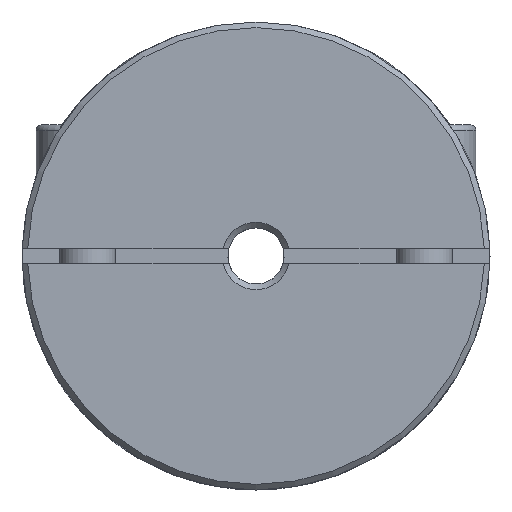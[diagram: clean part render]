
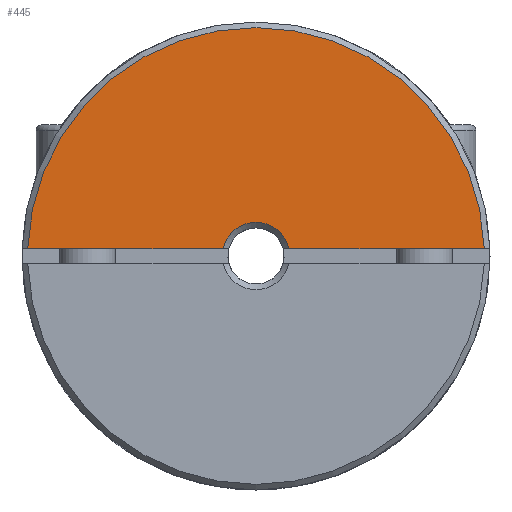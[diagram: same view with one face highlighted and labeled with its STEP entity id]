
A CAD part, left-side view. The second image highlights one B-rep face of the part: STEP entity #445.
In plain terms, the highlighted planar face has unit normal (-1, 0, 0) as drawn and (1, 0, 0) by its records, which use the part's own axes.
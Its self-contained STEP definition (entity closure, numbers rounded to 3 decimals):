
#445 = ADVANCED_FACE( '', ( #894 ), #895, .T. );
#894 = FACE_OUTER_BOUND( '', #1305, .T. );
#895 = PLANE( '', #1306 );
#1305 = EDGE_LOOP( '', ( #1995, #1996, #1997, #1998 ) );
#1306 = AXIS2_PLACEMENT_3D( '', #1999, #2000, #2001 );
#1995 = ORIENTED_EDGE( '', *, *, #2221, .F. );
#1996 = ORIENTED_EDGE( '', *, *, #2123, .T. );
#1997 = ORIENTED_EDGE( '', *, *, #2065, .F. );
#1998 = ORIENTED_EDGE( '', *, *, #2273, .T. );
#1999 = CARTESIAN_POINT( '', ( 11., 0., 12.5 ) );
#2000 = DIRECTION( '', ( 1., 0., 0. ) );
#2001 = DIRECTION( '', ( 0., 0., -1. ) );
#2065 = EDGE_CURVE( '', #2345, #2347, #2348, .T. );
#2123 = EDGE_CURVE( '', #2438, #2347, #2440, .T. );
#2221 = EDGE_CURVE( '', #2438, #2578, #2579, .T. );
#2273 = EDGE_CURVE( '', #2345, #2578, #2638, .F. );
#2345 = VERTEX_POINT( '', #2730 );
#2347 = VERTEX_POINT( '', #2735 );
#2348 = LINE( '', #2736, #2737 );
#2438 = VERTEX_POINT( '', #2961 );
#2440 = CIRCLE( '', #2966, 12.2 );
#2578 = VERTEX_POINT( '', #3207 );
#2579 = LINE( '', #3208, #3209 );
#2638 = CIRCLE( '', #3274, 1.8 );
#2730 = CARTESIAN_POINT( '', ( 11., -1.755, 0.4 ) );
#2735 = CARTESIAN_POINT( '', ( 11., -12.193, 0.4 ) );
#2736 = CARTESIAN_POINT( '', ( 11., 0., 0.4 ) );
#2737 = VECTOR( '', #3332, 1000. );
#2961 = CARTESIAN_POINT( '', ( 11., 12.193, 0.4 ) );
#2966 = AXIS2_PLACEMENT_3D( '', #3416, #3417, #3418 );
#3207 = CARTESIAN_POINT( '', ( 11., 1.755, 0.4 ) );
#3208 = CARTESIAN_POINT( '', ( 11., 0., 0.4 ) );
#3209 = VECTOR( '', #3555, 1000. );
#3274 = AXIS2_PLACEMENT_3D( '', #3598, #3599, #3600 );
#3332 = DIRECTION( '', ( 0., -1., 0. ) );
#3416 = CARTESIAN_POINT( '', ( 11., 0., 0. ) );
#3417 = DIRECTION( '', ( 1., 0., 0. ) );
#3418 = DIRECTION( '', ( 0., 0., -1. ) );
#3555 = DIRECTION( '', ( 0., -1., 0. ) );
#3598 = CARTESIAN_POINT( '', ( 11., 0., 0. ) );
#3599 = DIRECTION( '', ( 1., 0., 0. ) );
#3600 = DIRECTION( '', ( 0., 0., -1. ) );
